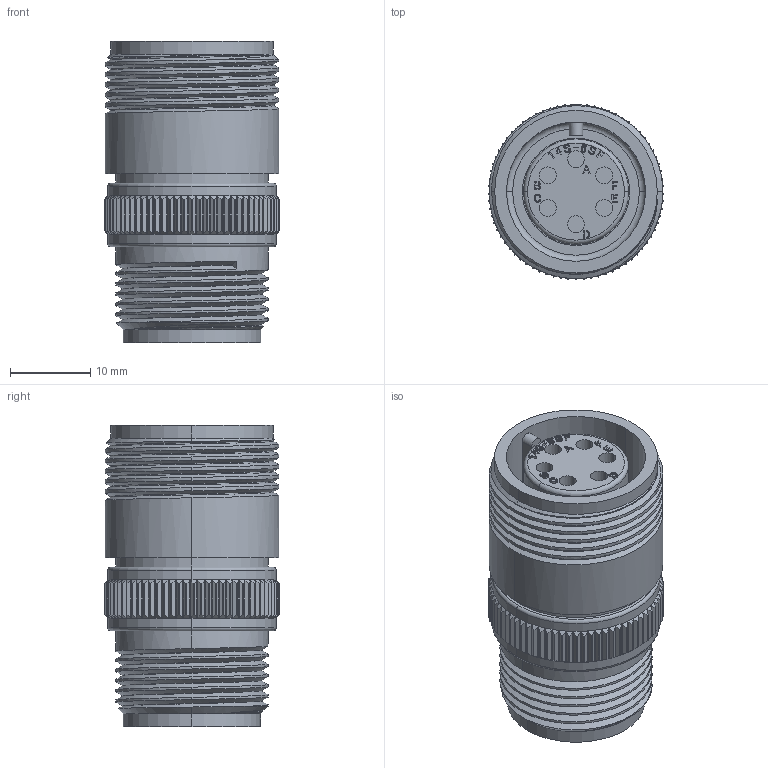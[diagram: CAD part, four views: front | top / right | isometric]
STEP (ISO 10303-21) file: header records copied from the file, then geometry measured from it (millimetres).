
FILE_DESCRIPTION (( 'STEP AP203' ), '1' );
FILE_NAME ('DMS3101A14S-6S.STEP', '2017-07-12T02:56:03', ( '' ), ( '' ), 'SwSTEP 2.0', 'SolidWorks 2015', '' );
FILE_SCHEMA (( 'CONFIG_CONTROL_DESIGN' ));
Products named in the file (1): DMS3101A14S-6S
Bounding box: 21.9 x 21.89 x 37.49 mm (x, y, z)
Volume: 7648.3 mm3; surface area: 7736.3 mm2
Topology: 1 solids, 1 shells, 1350 faces, 3773 edges, 2479 vertices
Faces by surface type: cylinder 512, plane 473, bspline 257, torus 80, cone 28
Entity records: 56058 total; most frequent: CARTESIAN_POINT 24773, ORIENTED_EDGE 7546, DIRECTION 4932, EDGE_CURVE 3773, VERTEX_POINT 2479, VECTOR 1646, LINE 1646, AXIS2_PLACEMENT_3D 1643
